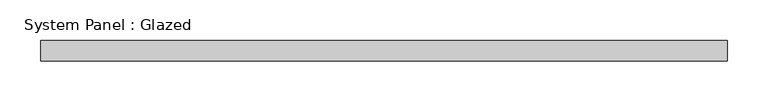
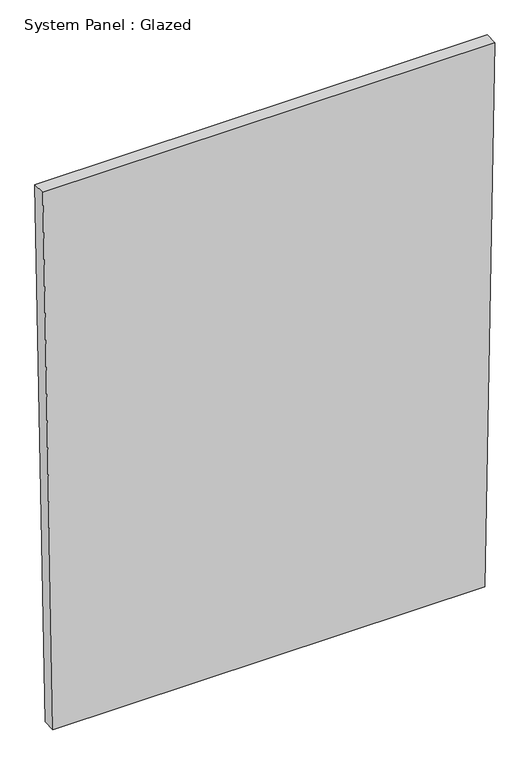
"""IFC4 building model written with IfcOpenShell, lengths in millimetres: plate geometry, System Panel : Glazed."""

import ifcopenshell
import ifcopenshell.guid

model = None  # the IFC model being written
_history = None  # IfcOwnerHistory: only IFC2X3 demands one
_inside = {}  # id of a spatial element -> (the spatial element, [elements in it])
_under = {}  # id of a project, library or spatial element -> (it, [spatial elements below it])
_declared = {}  # id of a project -> (the project, [libraries it declares])
_typed = {}  # id of a type object -> (the type object, [elements of that type])
_made_of = {}  # id of a material, layer set ... -> (it, [elements and type objects made of it])


def new_model(schema):
    """Start an empty IFC model of exactly this schema.

    Asked for "IFC4X3", IfcOpenShell would pick the latest addendum, in which some entities
    have other attributes; the version numbers below select the first issue.
    IFC2X3 requires an IfcOwnerHistory on every rooted entity: one is made here for all.
    """
    global model, _history
    if schema == "IFC4X3":
        model = ifcopenshell.file(schema_version=(4, 3, 0, 0))
    else:
        model = ifcopenshell.file(schema=schema)
    _inside.clear()
    _under.clear()
    _declared.clear()
    _typed.clear()
    _made_of.clear()
    _history = None
    if model.schema == "IFC2X3":
        org = make("IfcOrganization", Name="unknown")
        user = make(
            "IfcPersonAndOrganization",
            ThePerson=make("IfcPerson", FamilyName="unknown"),
            TheOrganization=org,
        )
        app = make(
            "IfcApplication",
            ApplicationDeveloper=org,
            Version="unknown",
            ApplicationFullName="unknown",
            ApplicationIdentifier="unknown",
        )
        _history = make(
            "IfcOwnerHistory",
            OwningUser=user,
            OwningApplication=app,
            ChangeAction="ADDED",
            CreationDate=0,
        )
    return model


def make(cls, **values):
    """One entity of the class cls with the attributes given. An attribute that is None is left unset."""
    return model.create_entity(
        cls, **{name: value for name, value in values.items() if value is not None}
    )


def rooted(cls, **values):
    """An entity with a GlobalId (a new one), such as an element, a storey or a relation."""
    return make(cls, GlobalId=ifcopenshell.guid.new(), OwnerHistory=_history, **values)


def si_unit(unit_type, name, prefix=None):
    """IfcSIUnit, for example si_unit("LENGTHUNIT", "METRE", prefix="MILLI")."""
    return make("IfcSIUnit", UnitType=unit_type, Prefix=prefix, Name=name)


def assignment(units):
    """IfcUnitAssignment: the units of a project."""
    return None if units is None else make("IfcUnitAssignment", Units=units)


def point(xyz):
    """IfcCartesianPoint."""
    return None if xyz is None else make("IfcCartesianPoint", Coordinates=xyz)


def direction(xyz):
    """IfcDirection."""
    return None if xyz is None else make("IfcDirection", DirectionRatios=xyz)


def frame(location, z_axis=None, x_axis=None):
    """IfcAxis2Placement3D, a coordinate frame: its origin and axes. An axis left out is left unset."""
    return make(
        "IfcAxis2Placement3D",
        Location=point(location),
        Axis=direction(z_axis),
        RefDirection=direction(x_axis),
    )


def origin():
    """The frame at (0, 0, 0) with its axes left unset."""
    return frame((0.0, 0.0, 0.0))


def place(relative_to, where):
    """IfcLocalPlacement: puts the frame where relative to a parent placement (None: the world)."""
    return make(
        "IfcLocalPlacement", PlacementRelTo=relative_to, RelativePlacement=where
    )


def context(
    kind, dimensions, precision=None, world=None, true_north=None, identifier=None
):
    """IfcGeometricRepresentationContext, for example the 3D "Model" context."""
    return make(
        "IfcGeometricRepresentationContext",
        ContextIdentifier=identifier,
        ContextType=kind,
        CoordinateSpaceDimension=dimensions,
        Precision=precision,
        WorldCoordinateSystem=world,
        TrueNorth=true_north,
    )


def project(units=None, contexts=None):
    """IfcProject with its units and contexts."""
    return rooted(
        "IfcProject",
        Name="project",
        RepresentationContexts=contexts,
        UnitsInContext=assignment(units),
    )


def spatial(cls, under=None, at=None, **own):
    """A site, building, storey or space (cls), placed at a placement, below another one or the project."""
    s = rooted(cls, ObjectPlacement=at, **own)
    if under is not None:
        _under.setdefault(under.id(), (under, []))[1].append(s)
    return s


def polyline(points):
    """IfcPolyline through the points."""
    return make("IfcPolyline", Points=[point(p) for p in points])


def outline(outer, holes=None, kind="AREA"):
    """IfcArbitraryClosedProfileDef: a profile drawn as a closed curve; with holes, ...WithVoids."""
    if holes is None:
        return make("IfcArbitraryClosedProfileDef", ProfileType=kind, OuterCurve=outer)
    return make(
        "IfcArbitraryProfileDefWithVoids",
        ProfileType=kind,
        OuterCurve=outer,
        InnerCurves=holes,
    )


def extrude(swept, where, along, depth):
    """IfcExtrudedAreaSolid: the profile swept, set in the frame where, extruded along a direction by depth."""
    return make(
        "IfcExtrudedAreaSolid",
        SweptArea=swept,
        Position=where,
        ExtrudedDirection=direction(along),
        Depth=depth,
    )


def shape(context_of_items, identifier, shape_type, items):
    """IfcShapeRepresentation: the items that make up one representation, for example the "Body"."""
    return make(
        "IfcShapeRepresentation",
        ContextOfItems=context_of_items,
        RepresentationIdentifier=identifier,
        RepresentationType=shape_type,
        Items=items,
    )


def source(mapping_origin, context_of_items, identifier, shape_type, items):
    """IfcRepresentationMap: a shape defined once, which mapped items show again and again."""
    return make(
        "IfcRepresentationMap",
        MappingOrigin=mapping_origin,
        MappedRepresentation=shape(context_of_items, identifier, shape_type, items),
    )


def transform(
    local_origin,
    x_axis=None,
    y_axis=None,
    z_axis=None,
    scale=None,
    scale2=None,
    scale3=None,
    uniform=True,
):
    """IfcCartesianTransformationOperator3D, or its non-uniform kind. x_axis, y_axis, z_axis: its Axis1, 2, 3."""
    if uniform:
        return make(
            "IfcCartesianTransformationOperator3D",
            Axis1=direction(x_axis),
            Axis2=direction(y_axis),
            LocalOrigin=point(local_origin),
            Scale=scale,
            Axis3=direction(z_axis),
        )
    return make(
        "IfcCartesianTransformationOperator3DnonUniform",
        Axis1=direction(x_axis),
        Axis2=direction(y_axis),
        LocalOrigin=point(local_origin),
        Scale=scale,
        Axis3=direction(z_axis),
        Scale2=scale2,
        Scale3=scale3,
    )


def mapped(mapping_source, mapping_target):
    """IfcMappedItem: shows the shape of a source again, moved by a transform."""
    return make(
        "IfcMappedItem", MappingSource=mapping_source, MappingTarget=mapping_target
    )


def made_of(thing, what):
    """Note that an element or type object is made of a material, layer set ...; save() writes the relation."""
    if what is not None:
        _made_of.setdefault(what.id(), (what, []))[1].append(thing)
    return thing


def element(
    cls,
    number,
    at=None,
    inside=None,
    cuts=None,
    type_object=None,
    material=None,
    context=None,
    identifier="Body",
    shape_type=None,
    held_by="IfcProductDefinitionShape",
    body=None,
    shapes=None,
    **own,
):
    """One element of the class cls, such as IfcWall. Its Tag is "e" and its number.

    at: its placement. inside: the storey or other place that contains it. cuts: it is an
    opening in that element (IfcRelVoidsElement). A single representation is given by context,
    identifier, shape_type and body (its items); several are given by shapes. held_by: the class
    of the entity that holds the representations. save() writes the other relations.
    """
    e = rooted(cls, Tag="e%d" % number, ObjectPlacement=at, **own)
    if body is not None:
        shapes = [shape(context, identifier, shape_type, body)]
    if shapes is not None:
        e.Representation = make(held_by, Representations=shapes)
    if inside is not None:
        _inside.setdefault(inside.id(), (inside, []))[1].append(e)
    if cuts is not None:
        rooted(
            "IfcRelVoidsElement", RelatingBuildingElement=cuts, RelatedOpeningElement=e
        )
    if type_object is not None:
        _typed.setdefault(type_object.id(), (type_object, []))[1].append(e)
    return made_of(e, material)


def aggregate(whole, parts):
    """IfcRelAggregates: a whole, such as a stair, and the parts it consists of."""
    return rooted("IfcRelAggregates", RelatingObject=whole, RelatedObjects=parts)


def save(model, path):
    """Write the relations noted so far, then the file.

    IfcRelAggregates (storeys below a building ...), IfcRelContainedInSpatialStructure (elements
    in a storey), IfcRelDefinesByType, IfcRelAssociatesMaterial and IfcRelDeclares: one each for
    every whole, place, type object, material and project.
    """
    for whole, parts in _under.values():
        aggregate(whole, parts)
    for where, things in _inside.values():
        rooted(
            "IfcRelContainedInSpatialStructure",
            RelatedElements=things,
            RelatingStructure=where,
        )
    for kind, things in _typed.values():
        rooted("IfcRelDefinesByType", RelatedObjects=things, RelatingType=kind)
    for what, things in _made_of.values():
        rooted("IfcRelAssociatesMaterial", RelatedObjects=things, RelatingMaterial=what)
    for by, libraries in _declared.values():
        rooted("IfcRelDeclares", RelatingContext=by, RelatedDefinitions=libraries)
    model.write(path)


def system_panel_glazed_78ed8cde(model_context):
    return source(origin(), model_context, "Body", "SweptSolid", [
        extrude(outline(polyline([(0.0, -402.9606029), (0.0, 402.9606029), (1066.6305484, 421.974103), (1066.6305484, -421.974103), (0.0, -402.9606029)])), frame((0.0, -44.45, 0.0), z_axis=(0.0, 1.0, 0.0), x_axis=(0.0, 0.0, 1.0)), (0.0, 0.0, 1.0), 25.4),
    ])


if __name__ == "__main__":
    model = new_model("IFC4")
    model_context = context("Model", 3, world=origin())
    ifc_project = project(units=[si_unit("LENGTHUNIT", "METRE", prefix="MILLI")], contexts=[model_context])
    site = spatial("IfcSite", under=ifc_project)
    building = spatial("IfcBuilding", under=site)
    placement = place(None, origin())
    system_panel_glazed_shape = system_panel_glazed_78ed8cde(model_context)
    element("IfcPlate", 1, ObjectType="System Panel : Glazed", at=placement, inside=building, context=model_context, shape_type="MappedRepresentation", body=[
        mapped(system_panel_glazed_shape, transform((0.0, 0.0, 0.0), x_axis=(1.0, 0.0, 0.0), y_axis=(0.0, 1.0, 0.0), z_axis=(0.0, 0.0, 1.0))),
    ])
    save(model, "model.ifc")
